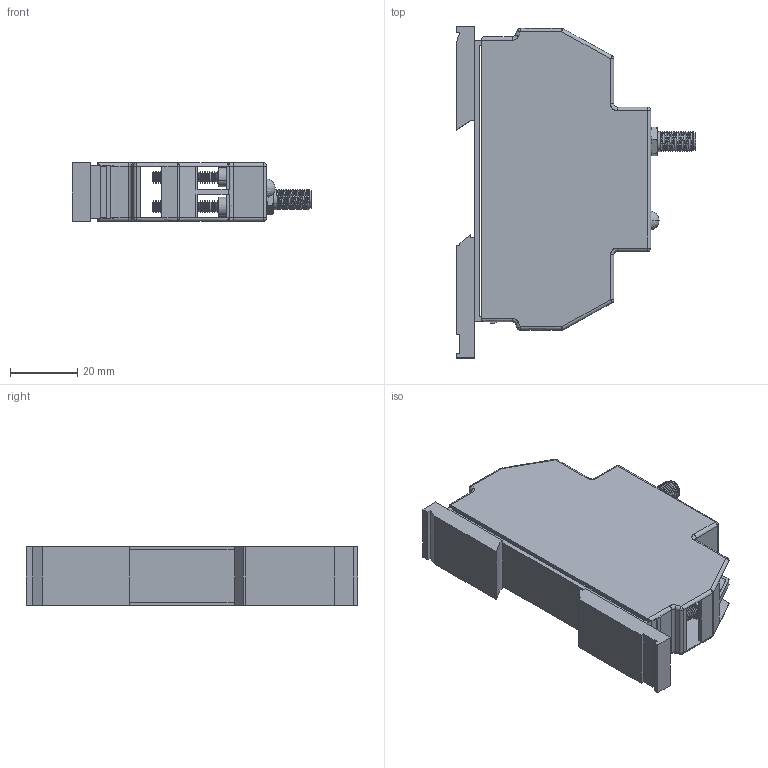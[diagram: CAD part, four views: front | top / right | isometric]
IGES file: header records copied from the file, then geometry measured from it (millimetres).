
Start section: SolidWorks IGES file using analytic representation for surfaces
Global section: file name: C:\Documents and Settings\Administrator\My Documents\EDI\3D\KD2446\KD2446.IGS; native system: SolidWorks 2008; preprocessor: SolidWorks 2008; author: Administrator; date: 100305.130007; units: millimetre
Bounding box: 71.4 x 99 x 17.5 mm (x, y, z)
Surface area: 29234.9 mm2 (no closed solid volume)
Topology: 0 solids, 0 shells, 1114 faces, 8546 edges, 8530 vertices
Faces by surface type: revolution 770, bspline 344
